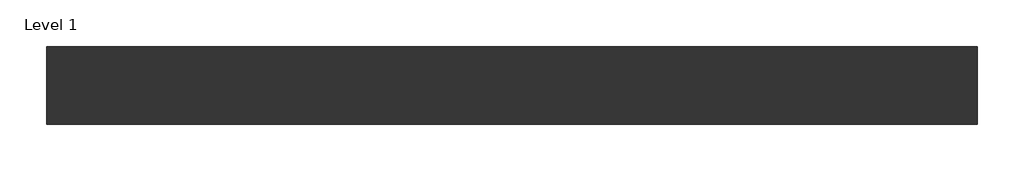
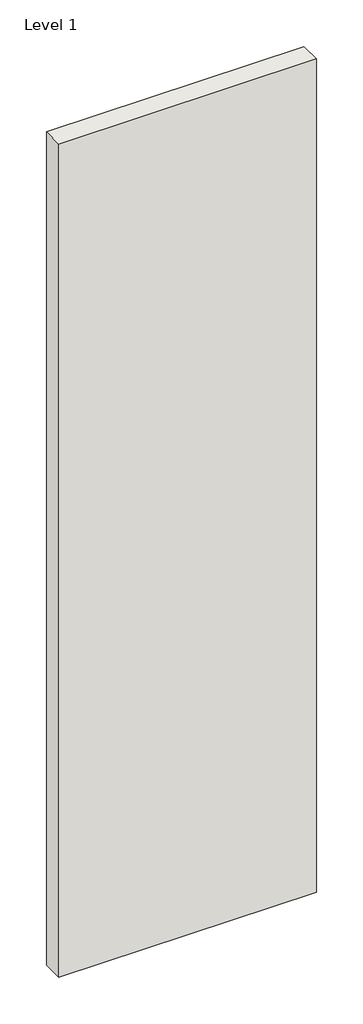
# One storey: 1 wall.
"""IFC4 building model written with IfcOpenShell, lengths in millimetres."""

from ifc_helpers import new_model, si_unit, origin, origin_with_axes, place, context, project, spatial, polyline, outline, extrude, element, save

model = new_model("IFC4")

# Units and contexts
model_context = context("Model", 3, world=origin())
ifc_project = project(units=[si_unit("LENGTHUNIT", "METRE", prefix="MILLI")], contexts=[model_context])

# Site, building, storey
site = spatial("IfcSite", under=ifc_project)
building = spatial("IfcBuilding", under=site)
storey = spatial("IfcBuildingStorey", under=building, Name="Level 1", Elevation=0.0)

# Wall
placement = place(None, origin())
element("IfcWall", 1, ObjectType="Tabique Simple – Placo® 100(70) BA15 + 70LM + BA15 c/600 - 45,7 dBA", at=placement, inside=storey, context=model_context, shape_type="SweptSolid", body=[
    extrude(outline(polyline([(-28676.4711674, -79223.3970389), (-29876.4711674, -79223.3970389), (-29876.4711674, -79123.3970389), (-28676.4711674, -79123.3970389), (-28676.4711674, -79223.3970389)])), origin_with_axes(), (0.0, 0.0, 1.0), 4100.0),
])

save(model, "model.ifc")
